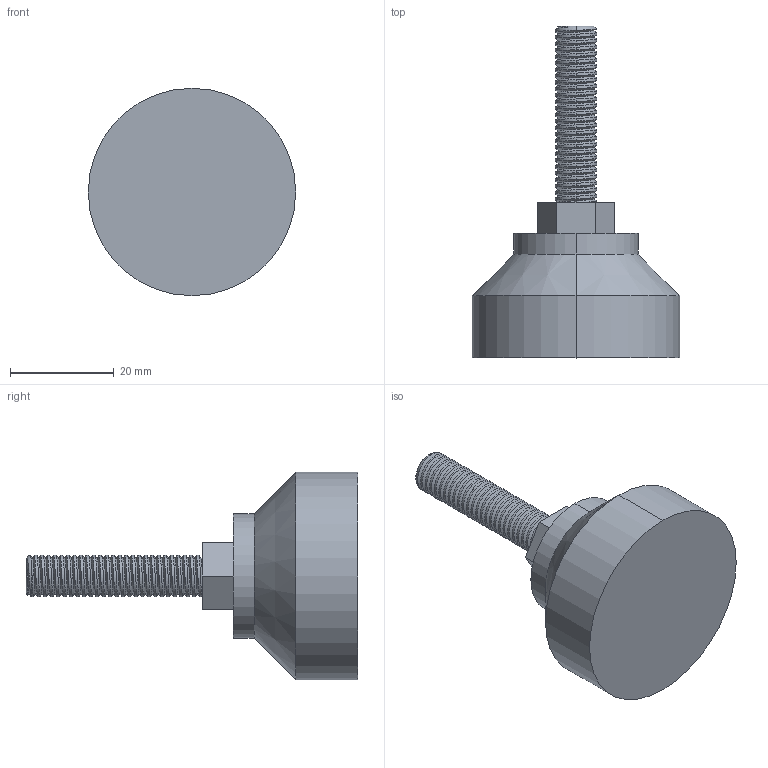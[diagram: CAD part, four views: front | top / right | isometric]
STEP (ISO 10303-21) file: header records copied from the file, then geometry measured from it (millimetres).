
FILE_DESCRIPTION (( 'STEP AP203' ), '1' );
FILE_NAME ('226-CE-DAFF-8.STEP', '2015-07-09T09:31:43', ( '' ), ( '' ), 'SwSTEP 2.0', 'SolidWorks 2013', '' );
FILE_SCHEMA (( 'CONFIG_CONTROL_DESIGN' ));
Length unit declared in the file: millimetre
Products named in the file (1): 226-CE-DAFF-8
Bounding box: 40 x 64 x 40 mm (x, y, z)
Volume: 25872.3 mm3; surface area: 6238.1 mm2
Topology: 1 solids, 1 shells, 85 faces, 233 edges, 152 vertices
Faces by surface type: cylinder 65, plane 12, torus 3, bspline 3, cone 2
Entity records: 5734 total; most frequent: CARTESIAN_POINT 3861, ORIENTED_EDGE 466, DIRECTION 294, EDGE_CURVE 233, VERTEX_POINT 152, AXIS2_PLACEMENT_3D 103, VECTOR 88, LINE 88
